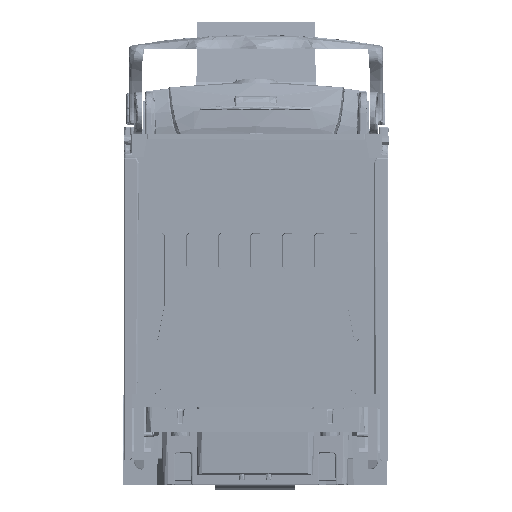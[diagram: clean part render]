
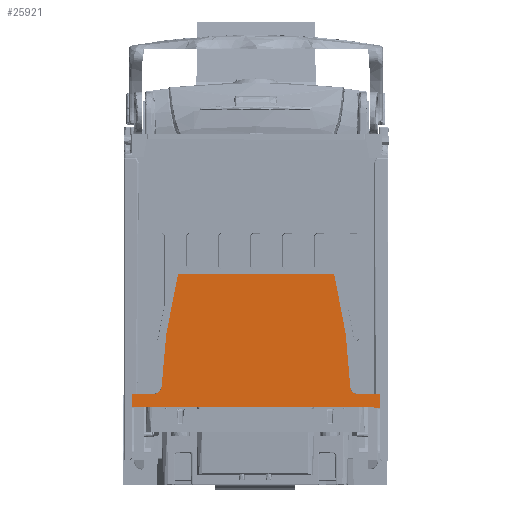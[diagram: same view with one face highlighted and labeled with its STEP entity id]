
A CAD part, left-side view. The second image highlights one B-rep face of the part: STEP entity #25921.
In plain terms, the highlighted planar face has unit normal (-1, 0, 0).
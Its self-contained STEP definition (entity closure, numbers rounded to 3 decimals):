
#14282=CIRCLE('',#232573,3.);
#14283=CIRCLE('',#232575,3.);
#14284=CIRCLE('',#232578,0.5);
#14285=CIRCLE('',#232580,0.5);
#25921=ADVANCED_FACE('',(#44210),#37931,.F.);
#37931=PLANE('',#233723);
#44210=FACE_OUTER_BOUND('',#57565,.T.);
#57565=EDGE_LOOP('',(#84765,#84766,#84767,#84768,#84769,#84770,#84771,#84772,
#84773,#84774,#84775,#84776,#84777,#84778));
#84765=ORIENTED_EDGE('',*,*,#167687,.T.);
#84766=ORIENTED_EDGE('',*,*,#167698,.F.);
#84767=ORIENTED_EDGE('',*,*,#167689,.T.);
#84768=ORIENTED_EDGE('',*,*,#167697,.F.);
#84769=ORIENTED_EDGE('',*,*,#167692,.T.);
#84770=ORIENTED_EDGE('',*,*,#167696,.F.);
#84771=ORIENTED_EDGE('',*,*,#167699,.T.);
#84772=ORIENTED_EDGE('',*,*,#167682,.F.);
#84773=ORIENTED_EDGE('',*,*,#167700,.T.);
#84774=ORIENTED_EDGE('',*,*,#167601,.T.);
#84775=ORIENTED_EDGE('',*,*,#164363,.F.);
#84776=ORIENTED_EDGE('',*,*,#167711,.F.);
#84777=ORIENTED_EDGE('',*,*,#167769,.T.);
#84778=ORIENTED_EDGE('',*,*,#167685,.F.);
#142903=VERTEX_POINT('',#300651);
#142904=VERTEX_POINT('',#300653);
#145434=VERTEX_POINT('',#316209);
#145459=VERTEX_POINT('',#317368);
#145460=VERTEX_POINT('',#317370);
#145461=VERTEX_POINT('',#317374);
#145462=VERTEX_POINT('',#317376);
#145463=VERTEX_POINT('',#317380);
#145464=VERTEX_POINT('',#317384);
#145465=VERTEX_POINT('',#317385);
#145466=VERTEX_POINT('',#317390);
#145467=VERTEX_POINT('',#317391);
#145468=VERTEX_POINT('',#317396);
#145471=VERTEX_POINT('',#317481);
#164363=EDGE_CURVE('',#142903,#142904,#198657,.T.);
#167601=EDGE_CURVE('',#145434,#142904,#200161,.T.);
#167682=EDGE_CURVE('',#145459,#145460,#14282,.T.);
#167685=EDGE_CURVE('',#145461,#145462,#14283,.T.);
#167687=EDGE_CURVE('',#145461,#145463,#200217,.T.);
#167689=EDGE_CURVE('',#145464,#145465,#14284,.T.);
#167692=EDGE_CURVE('',#145466,#145467,#14285,.T.);
#167696=EDGE_CURVE('',#145468,#145467,#200224,.T.);
#167697=EDGE_CURVE('',#145466,#145465,#200225,.T.);
#167698=EDGE_CURVE('',#145464,#145463,#200226,.T.);
#167699=EDGE_CURVE('',#145468,#145460,#200227,.T.);
#167700=EDGE_CURVE('',#145459,#145434,#200228,.T.);
#167711=EDGE_CURVE('',#145471,#142903,#200236,.T.);
#167769=EDGE_CURVE('',#145471,#145462,#200271,.T.);
#198657=LINE('',#300652,#215159);
#200161=LINE('',#316208,#216663);
#200217=LINE('',#317379,#216719);
#200224=LINE('',#317397,#216726);
#200225=LINE('',#317399,#216727);
#200226=LINE('',#317401,#216728);
#200227=LINE('',#317403,#216729);
#200228=LINE('',#317405,#216730);
#200236=LINE('',#317482,#216738);
#200271=LINE('',#318619,#216773);
#215159=VECTOR('',#248266,1.);
#216663=VECTOR('',#252816,1.);
#216719=VECTOR('',#252970,1.);
#216726=VECTOR('',#252987,1.);
#216727=VECTOR('',#252990,1.);
#216728=VECTOR('',#252993,1.);
#216729=VECTOR('',#252996,1.);
#216730=VECTOR('',#252999,1.);
#216738=VECTOR('',#253019,1.);
#216773=VECTOR('',#253140,1.);
#232573=AXIS2_PLACEMENT_3D('',#317369,#252959,#252960);
#232575=AXIS2_PLACEMENT_3D('',#317375,#252965,#252966);
#232578=AXIS2_PLACEMENT_3D('',#317383,#252974,#252975);
#232580=AXIS2_PLACEMENT_3D('',#317389,#252980,#252981);
#233723=AXIS2_PLACEMENT_3D('',#332178,#256452,#256453);
#248266=DIRECTION('',(0.,1.,0.002));
#252816=DIRECTION('',(0.,0.006,-1.));
#252959=DIRECTION('',(-1.,0.,0.));
#252960=DIRECTION('',(0.,1.,0.002));
#252965=DIRECTION('',(-1.,0.,0.));
#252966=DIRECTION('',(0.,1.,0.002));
#252970=DIRECTION('',(0.,0.085,0.996));
#252974=DIRECTION('',(-1.,0.,0.));
#252975=DIRECTION('',(0.,1.,0.002));
#252980=DIRECTION('',(-1.,0.,0.));
#252981=DIRECTION('',(0.,1.,0.002));
#252987=DIRECTION('',(0.,-0.193,0.981));
#252990=DIRECTION('',(0.,-1.,-0.002));
#252993=DIRECTION('',(0.,-0.189,-0.982));
#252996=DIRECTION('',(0.,0.089,-0.996));
#252999=DIRECTION('',(0.,1.,0.002));
#253019=DIRECTION('',(0.,-0.003,-1.));
#253140=DIRECTION('',(0.,1.,0.002));
#256452=DIRECTION('',(1.,0.,0.));
#256453=DIRECTION('',(0.,-1.,-0.002));
#300651=CARTESIAN_POINT('',(-277.559,-46.679,29.156));
#300652=CARTESIAN_POINT('',(-277.56,-0.254,29.237));
#300653=CARTESIAN_POINT('',(-277.561,46.161,29.318));
#316208=CARTESIAN_POINT('',(-277.561,45.58,124.343));
#316209=CARTESIAN_POINT('',(-277.561,46.131,34.218));
#317368=CARTESIAN_POINT('',(-277.561,38.075,34.204));
#317369=CARTESIAN_POINT('',(-277.561,38.07,37.204));
#317370=CARTESIAN_POINT('',(-277.561,35.082,36.937));
#317374=CARTESIAN_POINT('',(-277.559,-35.616,36.814));
#317375=CARTESIAN_POINT('',(-277.559,-38.605,37.07));
#317376=CARTESIAN_POINT('',(-277.559,-38.6,34.07));
#317379=CARTESIAN_POINT('',(-277.559,-35.833,34.288));
#317380=CARTESIAN_POINT('',(-277.559,-33.912,56.688));
#317383=CARTESIAN_POINT('',(-277.56,-29.163,78.706));
#317384=CARTESIAN_POINT('',(-277.56,-29.654,78.801));
#317385=CARTESIAN_POINT('',(-277.56,-29.164,79.206));
#317389=CARTESIAN_POINT('',(-277.561,28.483,78.807));
#317390=CARTESIAN_POINT('',(-277.561,28.482,79.307));
#317391=CARTESIAN_POINT('',(-277.561,28.973,78.903));
#317396=CARTESIAN_POINT('',(-277.561,33.309,56.805));
#317397=CARTESIAN_POINT('',(-277.561,33.309,56.805));
#317399=CARTESIAN_POINT('',(-277.56,-0.341,79.257));
#317401=CARTESIAN_POINT('',(-277.559,-33.912,56.688));
#317403=CARTESIAN_POINT('',(-277.561,35.307,34.412));
#317405=CARTESIAN_POINT('',(-277.561,45.738,34.217));
#317481=CARTESIAN_POINT('',(-277.559,-46.666,34.056));
#317482=CARTESIAN_POINT('',(-277.559,-46.424,126.591));
#318619=CARTESIAN_POINT('',(-277.559,-46.262,34.057));
#332178=CARTESIAN_POINT('',(-277.56,-0.254,29.237));
